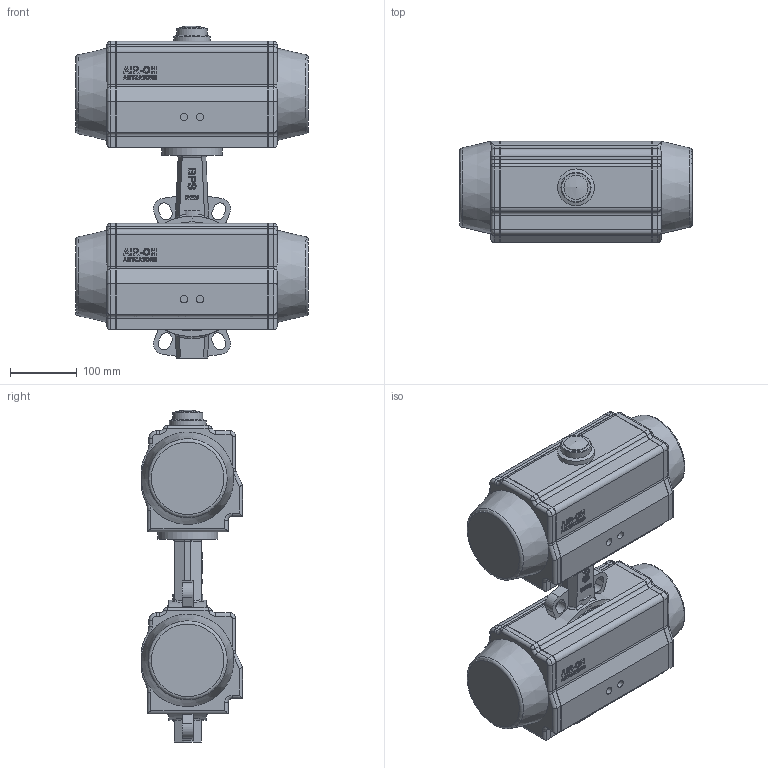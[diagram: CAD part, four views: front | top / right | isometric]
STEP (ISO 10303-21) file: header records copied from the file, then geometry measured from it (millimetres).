
FILE_DESCRIPTION( ( 'Unknown' ), '1' );
FILE_NAME( 'R:/ECCUA/ROOTSI BPS 3D vidinad/Poordklapid Wafer type/Butterfly valve(wafer) with pneumatic actuator BPS/STEP formaat/BPS 2303125PE butterfly valve DN125.stp', 'Unknown', ( 'Unknown' ), ( 'Unknown' ), 'PSStep 10.1', 'Unknown', ' ' );
FILE_SCHEMA( ( 'AUTOMOTIVE_DESIGN { 1 0 10303 214 1 1 1 1 }' ) );
Length unit declared in the file: millimetre
Products named in the file (5): Assem1; Butterfly valve wafer type DN125 BPS; BPS 8300125DA-SR pneumatic actuator
Bounding box: 348 x 151 x 496 mm (x, y, z)
Volume: 15600560.2 mm3; surface area: 935564 mm2
Topology: 8 solids, 8 shells, 1014 faces, 2610 edges, 1698 vertices
Faces by surface type: plane 336, extrusion 308, cylinder 240, torus 50, bspline 44, cone 34, sphere 2
Full cylindrical faces by diameter (mm): 6.647 x8, 8.376 x8, 9 x8, 10.106 x8, 11.445 x4, 36 x2, 45 x2, 55 x2, 90 x2, 125 x2, 163 x4, 180 x2
Entity records: 23901 total; most frequent: CARTESIAN_POINT 8149, ORIENTED_EDGE 2442, DIRECTION 2058, EDGE_CURVE 1221, VERTEX_POINT 829, VECTOR 792, LINE 638, AXIS2_PLACEMENT_3D 633
